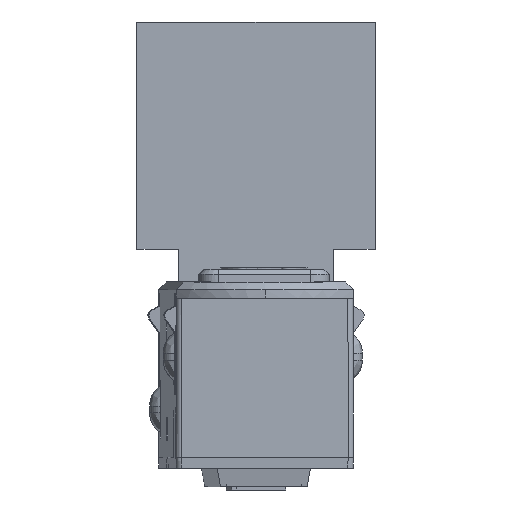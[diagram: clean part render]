
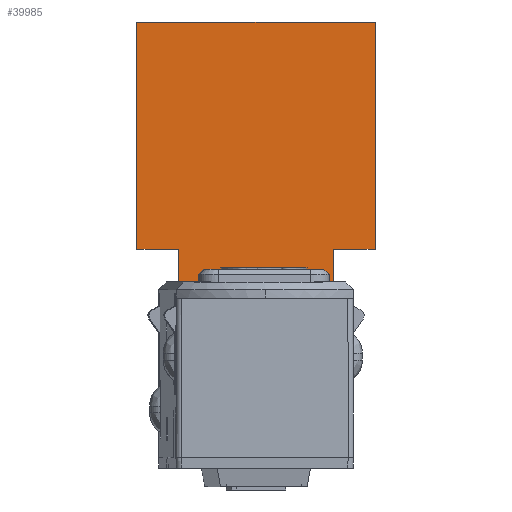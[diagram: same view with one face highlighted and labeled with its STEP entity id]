
A CAD part, front view. The second image highlights one B-rep face of the part: STEP entity #39985.
In plain terms, the highlighted planar face has unit normal (0, -1, 0) as drawn and (0, 0, 1) by its records, which use the part's own axes.
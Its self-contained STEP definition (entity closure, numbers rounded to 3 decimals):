
#827 = VECTOR ( 'NONE', #37635, 1000. ) ;
#907 = VERTEX_POINT ( 'NONE', #6522 ) ;
#1893 = DIRECTION ( 'NONE',  ( 0., 0., 1. ) ) ;
#3121 = EDGE_CURVE ( 'NONE', #64870, #57204, #25148, .T. ) ;
#6522 = CARTESIAN_POINT ( 'NONE',  ( -7.132, 13.5, 109.5 ) ) ;
#7432 = FACE_OUTER_BOUND ( 'NONE', #65257, .T. ) ;
#11417 = CARTESIAN_POINT ( 'NONE',  ( -11., -10.5, 109.5 ) ) ;
#11536 = DIRECTION ( 'NONE',  ( 0., -1., 0. ) ) ;
#11709 = CARTESIAN_POINT ( 'NONE',  ( -11., 10.5, 109.5 ) ) ;
#12566 = VECTOR ( 'NONE', #11536, 1000. ) ;
#12990 = EDGE_CURVE ( 'NONE', #59564, #32148, #16217, .T. ) ;
#13433 = DIRECTION ( 'NONE',  ( 0., -1., 0. ) ) ;
#14044 = DIRECTION ( 'NONE',  ( -1., 0., 0. ) ) ;
#14157 = CARTESIAN_POINT ( 'NONE',  ( -11., 0., 109.5 ) ) ;
#15059 = CARTESIAN_POINT ( 'NONE',  ( 7.132, 0., 109.5 ) ) ;
#15243 = EDGE_CURVE ( 'NONE', #25443, #907, #48011, .T. ) ;
#16217 = LINE ( 'NONE', #38788, #57154 ) ;
#18805 = DIRECTION ( 'NONE',  ( -1., 0., 0. ) ) ;
#19896 = DIRECTION ( 'NONE',  ( -1., 0., 0. ) ) ;
#24181 = EDGE_CURVE ( 'NONE', #26176, #33008, #46925, .T. ) ;
#24484 = DIRECTION ( 'NONE',  ( 1., 0., 0. ) ) ;
#25148 = LINE ( 'NONE', #64710, #57902 ) ;
#25443 = VERTEX_POINT ( 'NONE', #47944 ) ;
#26176 = VERTEX_POINT ( 'NONE', #69212 ) ;
#30019 = PLANE ( 'NONE',  #53209 ) ;
#30404 = VECTOR ( 'NONE', #18805, 1000. ) ;
#32148 = VERTEX_POINT ( 'NONE', #11417 ) ;
#32360 = EDGE_CURVE ( 'NONE', #57204, #25443, #65721, .T. ) ;
#33008 = VERTEX_POINT ( 'NONE', #11709 ) ;
#34898 = ORIENTED_EDGE ( 'NONE', *, *, #67682, .T. ) ;
#36370 = CARTESIAN_POINT ( 'NONE',  ( 11., -10.5, 109.5 ) ) ;
#36627 = ORIENTED_EDGE ( 'NONE', *, *, #32360, .T. ) ;
#36735 = DIRECTION ( 'NONE',  ( 0., -1., 0. ) ) ;
#37635 = DIRECTION ( 'NONE',  ( 0., 1., 0. ) ) ;
#38788 = CARTESIAN_POINT ( 'NONE',  ( -11., -10.5, 109.5 ) ) ;
#39654 = LINE ( 'NONE', #62205, #12566 ) ;
#39985 = ADVANCED_FACE ( 'NONE', ( #7432 ), #30019, .T. ) ;
#41566 = LINE ( 'NONE', #64102, #42454 ) ;
#42454 = VECTOR ( 'NONE', #13433, 1000. ) ;
#45844 = EDGE_CURVE ( 'NONE', #64870, #59564, #39654, .T. ) ;
#46228 = ORIENTED_EDGE ( 'NONE', *, *, #57955, .T. ) ;
#46925 = LINE ( 'NONE', #69475, #30404 ) ;
#47944 = CARTESIAN_POINT ( 'NONE',  ( 7.132, 13.5, 109.5 ) ) ;
#48011 = LINE ( 'NONE', #70559, #53800 ) ;
#49879 = ORIENTED_EDGE ( 'NONE', *, *, #24181, .T. ) ;
#51068 = ORIENTED_EDGE ( 'NONE', *, *, #45844, .F. ) ;
#52571 = CARTESIAN_POINT ( 'NONE',  ( 0., 0., 109.5 ) ) ;
#53209 = AXIS2_PLACEMENT_3D ( 'NONE', #52571, #1893, #24484 ) ;
#53800 = VECTOR ( 'NONE', #19896, 1000. ) ;
#55190 = CARTESIAN_POINT ( 'NONE',  ( 7.132, 10.5, 109.5 ) ) ;
#57154 = VECTOR ( 'NONE', #61327, 1000. ) ;
#57204 = VERTEX_POINT ( 'NONE', #55190 ) ;
#57225 = ORIENTED_EDGE ( 'NONE', *, *, #15243, .T. ) ;
#57902 = VECTOR ( 'NONE', #14044, 1000. ) ;
#57955 = EDGE_CURVE ( 'NONE', #907, #26176, #41566, .T. ) ;
#59564 = VERTEX_POINT ( 'NONE', #36370 ) ;
#61327 = DIRECTION ( 'NONE',  ( -1., 0., 0. ) ) ;
#62205 = CARTESIAN_POINT ( 'NONE',  ( 11., -10.5, 109.5 ) ) ;
#64102 = CARTESIAN_POINT ( 'NONE',  ( -7.132, 0., 109.5 ) ) ;
#64710 = CARTESIAN_POINT ( 'NONE',  ( 0., 10.5, 109.5 ) ) ;
#64823 = LINE ( 'NONE', #14157, #70333 ) ;
#64870 = VERTEX_POINT ( 'NONE', #70538 ) ;
#65078 = ORIENTED_EDGE ( 'NONE', *, *, #3121, .T. ) ;
#65257 = EDGE_LOOP ( 'NONE', ( #46228, #49879, #34898, #73109, #51068, #65078, #36627, #57225 ) ) ;
#65721 = LINE ( 'NONE', #15059, #827 ) ;
#67682 = EDGE_CURVE ( 'NONE', #33008, #32148, #64823, .T. ) ;
#69212 = CARTESIAN_POINT ( 'NONE',  ( -7.132, 10.5, 109.5 ) ) ;
#69475 = CARTESIAN_POINT ( 'NONE',  ( 0., 10.5, 109.5 ) ) ;
#70333 = VECTOR ( 'NONE', #36735, 1000. ) ;
#70538 = CARTESIAN_POINT ( 'NONE',  ( 11., 10.5, 109.5 ) ) ;
#70559 = CARTESIAN_POINT ( 'NONE',  ( 0., 13.5, 109.5 ) ) ;
#73109 = ORIENTED_EDGE ( 'NONE', *, *, #12990, .F. ) ;
